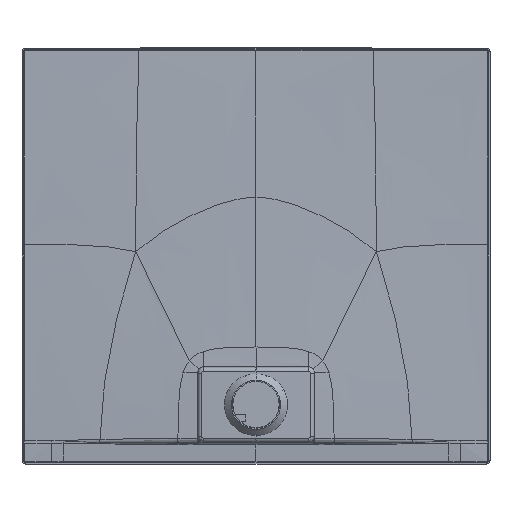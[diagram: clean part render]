
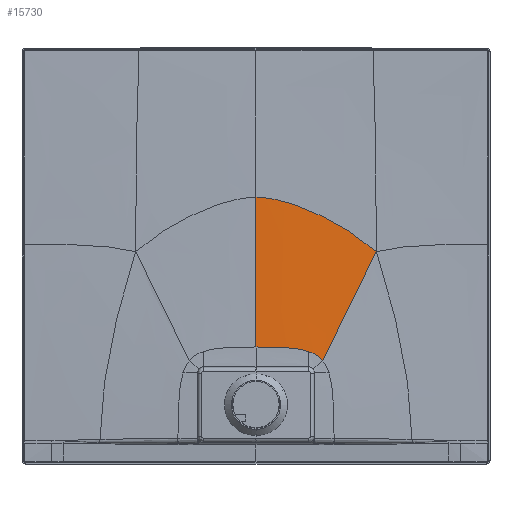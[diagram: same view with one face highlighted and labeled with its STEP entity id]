
A CAD part, front view. The second image highlights one B-rep face of the part: STEP entity #15730.
In plain terms, the highlighted free-form (B-spline) face has degree [3, 3] with [9, 8] control points.
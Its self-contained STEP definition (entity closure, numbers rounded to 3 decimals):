
#1070=CARTESIAN_POINT('',(101.03,-16.199,216.297));
#1071=CARTESIAN_POINT('',(106.844,-16.198,214.314));
#1072=CARTESIAN_POINT('',(117.11,-16.198,209.473));
#1073=CARTESIAN_POINT('',(124.971,-16.197,202.505));
#1074=CARTESIAN_POINT('',(128.377,-16.197,198.395));
#1089=CARTESIAN_POINT('',(0.,-16.199,
225.069));
#1091=CARTESIAN_POINT('',(0.,-16.199,
225.069));
#1092=CARTESIAN_POINT('',(11.658,-16.199,225.069));
#1093=CARTESIAN_POINT('',(33.167,-16.199,224.919));
#1094=CARTESIAN_POINT('',(60.433,-16.199,223.761));
#1095=CARTESIAN_POINT('',(83.12,-16.199,221.182));
#1096=CARTESIAN_POINT('',(95.475,-16.199,218.192));
#1097=CARTESIAN_POINT('',(101.03,-16.199,216.297));
#1099=CARTESIAN_POINT('',(101.03,-16.199,216.297));
#4329=CARTESIAN_POINT('',(231.383,-8.279,408.37));
#4892=CARTESIAN_POINT('',(231.383,-8.279,408.37));
#4893=CARTESIAN_POINT('',(227.991,-8.46,401.907));
#4894=CARTESIAN_POINT('',(221.373,-8.826,389.254));
#4895=CARTESIAN_POINT('',(208.922,-9.572,365.185));
#4896=CARTESIAN_POINT('',(189.38,-10.889,326.566));
#4897=CARTESIAN_POINT('',(167.809,-12.67,281.14));
#4898=CARTESIAN_POINT('',(147.264,-14.525,236.252));
#4899=CARTESIAN_POINT('',(134.631,-15.647,210.37));
#4900=CARTESIAN_POINT('',(128.377,-16.197,198.395));
#4902=DIRECTION('',(0.,-0.023,-1.));
#4903=VECTOR('',#4902,287.576);
#4904=CARTESIAN_POINT('',(0.,-9.599,
512.569));
#4905=LINE('',#4904,#4903);
#5275=CARTESIAN_POINT('',(231.383,-8.279,408.37));
#5276=CARTESIAN_POINT('',(221.362,-8.391,417.192));
#5277=CARTESIAN_POINT('',(201.241,-8.587,433.133));
#5278=CARTESIAN_POINT('',(161.239,-8.894,459.336));
#5279=CARTESIAN_POINT('',(112.29,-9.197,484.741));
#5280=CARTESIAN_POINT('',(55.299,-9.504,506.641));
#5281=CARTESIAN_POINT('',(18.267,-9.599,512.569));
#5282=CARTESIAN_POINT('',(0.,-9.599,
512.569));
#5878=VERTEX_POINT('',#1099);
#5879=VERTEX_POINT('',#1074);
#5880=VERTEX_POINT('',#1089);
#6185=VERTEX_POINT('',#4329);
#6204=CARTESIAN_POINT('',(0.,-9.599,
512.569));
#6205=VERTEX_POINT('',#6204);
#15648=CARTESIAN_POINT('',(-1.331,-16.265,
222.194));
#15649=CARTESIAN_POINT('',(16.978,-16.265,
222.2));
#15650=CARTESIAN_POINT('',(48.741,-16.265,
221.973));
#15651=CARTESIAN_POINT('',(84.766,-16.263,
219.051));
#15652=CARTESIAN_POINT('',(106.489,-16.262,
212.995));
#15653=CARTESIAN_POINT('',(120.005,-16.262,
204.914));
#15654=CARTESIAN_POINT('',(125.549,-16.263,
199.545));
#15655=CARTESIAN_POINT('',(128.091,-16.263,
196.397));
#15656=CARTESIAN_POINT('',(-1.331,-15.693,
247.109));
#15657=CARTESIAN_POINT('',(16.971,-15.693,
247.138));
#15658=CARTESIAN_POINT('',(49.144,-15.695,
246.031));
#15659=CARTESIAN_POINT('',(86.676,-15.704,
239.774));
#15660=CARTESIAN_POINT('',(110.081,-15.71,
230.179));
#15661=CARTESIAN_POINT('',(125.186,-15.705,
219.255));
#15662=CARTESIAN_POINT('',(131.637,-15.697,
212.493));
#15663=CARTESIAN_POINT('',(134.68,-15.691,
208.643));
#15664=CARTESIAN_POINT('',(-1.327,-14.571,
295.983));
#15665=CARTESIAN_POINT('',(16.913,-14.571,
296.056));
#15666=CARTESIAN_POINT('',(49.85,-14.576,
293.226));
#15667=CARTESIAN_POINT('',(90.395,-14.6,
280.652));
#15668=CARTESIAN_POINT('',(117.171,-14.613,
264.694));
#15669=CARTESIAN_POINT('',(135.434,-14.592,
248.894));
#15670=CARTESIAN_POINT('',(143.685,-14.565,
239.786));
#15671=CARTESIAN_POINT('',(147.724,-14.546,
234.745));
#15672=CARTESIAN_POINT('',(-1.311,-12.899,
368.814));
#15673=CARTESIAN_POINT('',(16.692,-12.899,
368.945));
#15674=CARTESIAN_POINT('',(50.582,-12.895,
363.872));
#15675=CARTESIAN_POINT('',(95.82,-12.891,
343.471));
#15676=CARTESIAN_POINT('',(128.241,-12.864,
320.029));
#15677=CARTESIAN_POINT('',(151.868,-12.782,
298.506));
#15678=CARTESIAN_POINT('',(163.146,-12.709,
286.525));
#15679=CARTESIAN_POINT('',(168.842,-12.661,
279.955));
#15680=CARTESIAN_POINT('',(-1.304,-11.524,
428.709));
#15681=CARTESIAN_POINT('',(16.592,-11.525,
428.867));
#15682=CARTESIAN_POINT('',(51.375,-11.493,
422.722));
#15683=CARTESIAN_POINT('',(100.939,-11.395,
398.879));
#15684=CARTESIAN_POINT('',(139.152,-11.269,
372.068));
#15685=CARTESIAN_POINT('',(168.639,-11.088,
347.169));
#15686=CARTESIAN_POINT('',(183.247,-10.955,
333.016));
#15687=CARTESIAN_POINT('',(190.736,-10.874,
325.147));
#15688=CARTESIAN_POINT('',(-1.323,-10.562,
470.636));
#15689=CARTESIAN_POINT('',(16.819,-10.563,
470.797));
#15690=CARTESIAN_POINT('',(52.7,-10.501,
464.563));
#15691=CARTESIAN_POINT('',(105.925,-10.302,
440.795));
#15692=CARTESIAN_POINT('',(149.18,-10.086,
413.935));
#15693=CARTESIAN_POINT('',(183.947,-9.831,
387.798));
#15694=CARTESIAN_POINT('',(201.52,-9.657,
372.346));
#15695=CARTESIAN_POINT('',(210.559,-9.554,
363.612));
#15696=CARTESIAN_POINT('',(-1.344,-9.997,
495.232));
#15697=CARTESIAN_POINT('',(17.08,-9.999,
495.389));
#15698=CARTESIAN_POINT('',(53.818,-9.918,
489.296));
#15699=CARTESIAN_POINT('',(109.439,-9.654,
466.295));
#15700=CARTESIAN_POINT('',(155.945,-9.386,
440.085));
#15701=CARTESIAN_POINT('',(194.093,-9.094,
413.564));
#15702=CARTESIAN_POINT('',(213.525,-8.901,
397.44));
#15703=CARTESIAN_POINT('',(223.513,-8.786,
388.237));
#15704=CARTESIAN_POINT('',(-1.358,-9.707,
507.848));
#15705=CARTESIAN_POINT('',(17.264,-9.71,
508.002));
#15706=CARTESIAN_POINT('',(54.529,-9.619,
502.046));
#15707=CARTESIAN_POINT('',(111.477,-9.321,
479.683));
#15708=CARTESIAN_POINT('',(159.748,-9.027,
454.03));
#15709=CARTESIAN_POINT('',(199.708,-8.72,
427.422));
#15710=CARTESIAN_POINT('',(220.115,-8.519,
410.985));
#15711=CARTESIAN_POINT('',(230.594,-8.399,
401.559));
#15712=CARTESIAN_POINT('',(-1.367,-9.555,
514.475));
#15713=CARTESIAN_POINT('',(17.376,-9.558,
514.627));
#15714=CARTESIAN_POINT('',(54.944,-9.461,
508.759));
#15715=CARTESIAN_POINT('',(112.617,-9.146,
486.789));
#15716=CARTESIAN_POINT('',(161.839,-8.84,
461.482));
#15717=CARTESIAN_POINT('',(202.761,-8.526,
434.851));
#15718=CARTESIAN_POINT('',(223.68,-8.321,
418.259));
#15719=CARTESIAN_POINT('',(234.414,-8.199,
408.721));
#15720=B_SPLINE_SURFACE_WITH_KNOTS('',3,3,((#15648,#15649,#15650,#15651,#15652,
#15653,#15654,#15655),(#15656,#15657,#15658,#15659,#15660,#15661,#15662,#15663),
(#15664,#15665,#15666,#15667,#15668,#15669,#15670,#15671),(#15672,#15673,#15674,
#15675,#15676,#15677,#15678,#15679),(#15680,#15681,#15682,#15683,#15684,#15685,
#15686,#15687),(#15688,#15689,#15690,#15691,#15692,#15693,#15694,#15695),
(#15696,#15697,#15698,#15699,#15700,#15701,#15702,#15703),(#15704,#15705,#15706,
#15707,#15708,#15709,#15710,#15711),(#15712,#15713,#15714,#15715,#15716,#15717,
#15718,#15719)),.UNSPECIFIED.,.F.,.F.,.F.,(4,1,1,1,1,1,4),(4,1,1,1,1,4),(
-0.005,0.125,0.25,0.375,0.438,0.469,0.503),
(-0.003,0.125,0.25,0.375,0.438,0.504),
.UNSPECIFIED.);
#15722=ORIENTED_EDGE('',*,*,#15721,.F.);
#15724=ORIENTED_EDGE('',*,*,#15723,.F.);
#15725=ORIENTED_EDGE('',*,*,#15459,.T.);
#15726=ORIENTED_EDGE('',*,*,#7766,.F.);
#15727=ORIENTED_EDGE('',*,*,#7825,.F.);
#15728=EDGE_LOOP('',(#15722,#15724,#15725,#15726,#15727));
#15729=FACE_OUTER_BOUND('',#15728,.F.);
#15730=ADVANCED_FACE('',(#15729),#15720,.F.);
#1075=B_SPLINE_CURVE_WITH_KNOTS('',3,(#1070,#1071,#1072,#1073,#1074),
.UNSPECIFIED.,.F.,.F.,(4,1,4),(0.,0.5,1.),.UNSPECIFIED.);
#1098=B_SPLINE_CURVE_WITH_KNOTS('',3,(#1091,#1092,#1093,#1094,#1095,#1096,
#1097),.UNSPECIFIED.,.F.,.F.,(4,1,1,1,4),(0.,0.25,
0.5,0.75,1.),.UNSPECIFIED.);
#4901=B_SPLINE_CURVE_WITH_KNOTS('',3,(#4892,#4893,#4894,#4895,#4896,#4897,#4898,
#4899,#4900),.UNSPECIFIED.,.F.,.F.,(4,1,1,1,1,1,4),(0.,0.063,
0.125,0.25,0.5,0.75,1.),
.UNSPECIFIED.);
#5283=B_SPLINE_CURVE_WITH_KNOTS('',3,(#5275,#5276,#5277,#5278,#5279,#5280,#5281,
#5282),.UNSPECIFIED.,.F.,.F.,(4,1,1,1,1,4),(0.,0.125,
0.25,0.5,0.75,1.),.UNSPECIFIED.);
#7766=EDGE_CURVE('',#5878,#5879,#1075,.T.);
#7825=EDGE_CURVE('',#5880,#5878,#1098,.T.);
#15459=EDGE_CURVE('',#6185,#5879,#4901,.T.);
#15721=EDGE_CURVE('',#6205,#5880,#4905,.T.);
#15723=EDGE_CURVE('',#6185,#6205,#5283,.T.);
